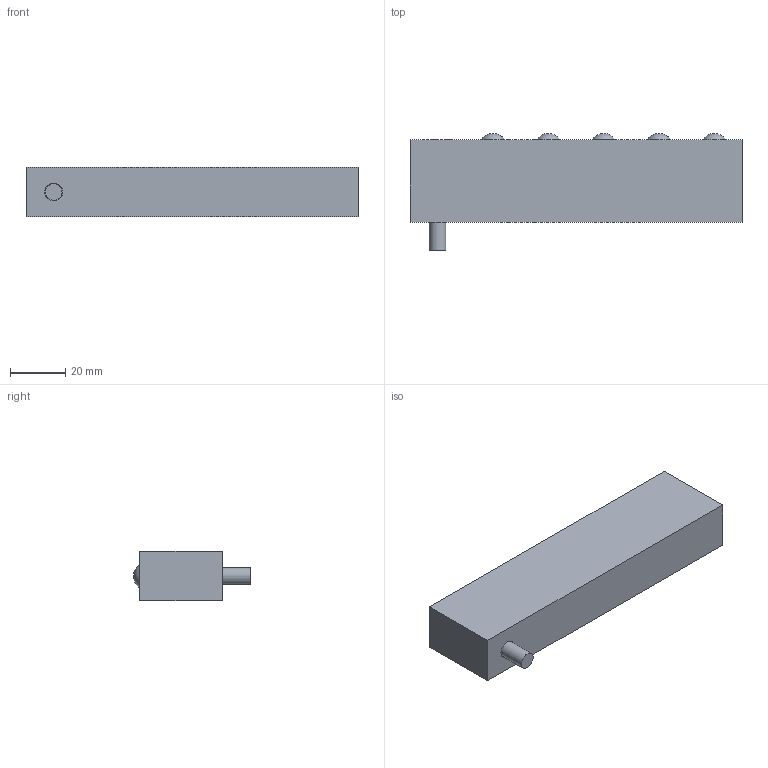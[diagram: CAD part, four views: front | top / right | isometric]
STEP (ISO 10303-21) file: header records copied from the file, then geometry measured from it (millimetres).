
FILE_DESCRIPTION(/* description */ (''),/* implementation_level */ '2;1');
FILE_NAME(/* name */ 'V:\Shrinkwrap\EMB\EMB - SHRINKWRAP\EMB18-5_Shrinkwrap_1.stp',/* time_stamp */ '2022-08-12T09:50:45+02:00',/* author */ ('cw'),/* organization */ (''),/* preprocessor_version */ 'ST-DEVELOPER v17',/* originating_system */ 'Autodesk Inventor 2019',/* authorisation */ '');
FILE_SCHEMA (('AUTOMOTIVE_DESIGN { 1 0 10303 214 3 1 1 }'));
Length unit declared in the file: millimetre
Products named in the file (1): EMB18-5_Shrinkwrap_1
Bounding box: 120 x 42.27 x 17.8 mm (x, y, z)
Volume: 62815.6 mm3; surface area: 14024.8 mm2
Topology: 1 solids, 1 shells, 19 faces, 33 edges, 27 vertices
Faces by surface type: plane 10, sphere 5, cylinder 4
Full cylindrical faces by diameter (mm): 6 x1, 6.5 x1, 10 x1, 11 x1
Entity records: 553 total; most frequent: DIRECTION 86, CARTESIAN_POINT 78, ORIENTED_EDGE 62, AXIS2_PLACEMENT_3D 35, EDGE_CURVE 31, EDGE_LOOP 28, VERTEX_POINT 23, STYLED_ITEM 22
